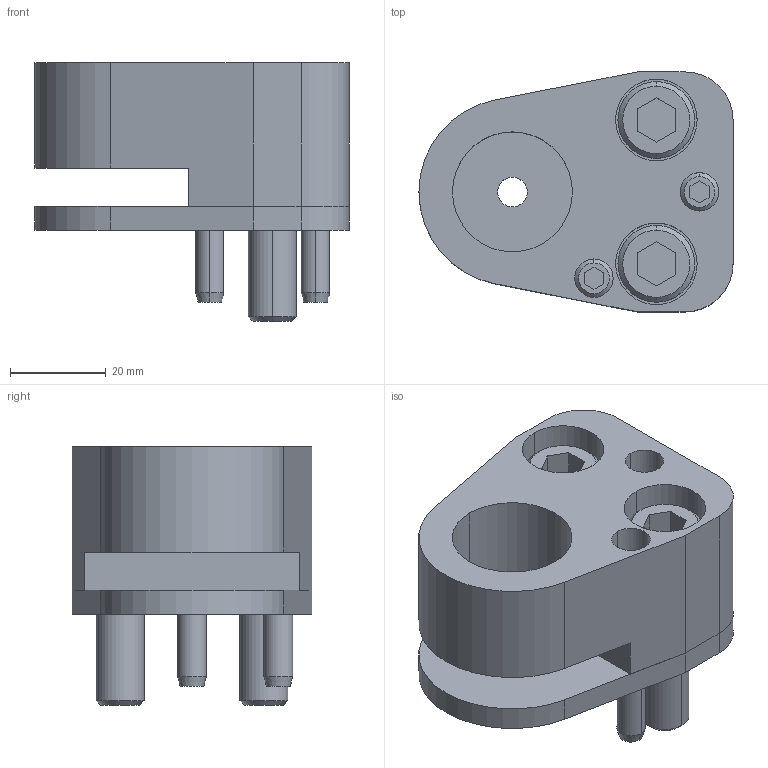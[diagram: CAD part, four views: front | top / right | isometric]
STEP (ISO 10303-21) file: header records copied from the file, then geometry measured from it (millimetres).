
FILE_DESCRIPTION(/* description */ (''),/* implementation_level */ '2;1');
FILE_NAME(/* name */ '3d_ap-fp25_02885_r00.stp',/* time_stamp */ '2011-01-10T14:17:45+09:00',/* author */ ('MISUMI'),/* organization */ (''),/* preprocessor_version */ 'ST-DEVELOPER v11',/* originating_system */ 'UGS - NX 5.0',/* authorisation */ '');
FILE_SCHEMA (('CONFIG_CONTROL_DESIGN'));
Length unit declared in the file: millimetre
Products named in the file (1): 3d_ap-fp25_02885_r00
Bounding box: 65.5 x 50 x 54 mm (x, y, z)
Volume: 73716.4 mm3; surface area: 28178.5 mm2
Topology: 8 solids, 8 shells, 154 faces, 350 edges, 225 vertices
Faces by surface type: plane 68, cylinder 60, cone 26
Entity records: 4496 total; most frequent: DIRECTION 802, CARTESIAN_POINT 783, ORIENTED_EDGE 700, EDGE_CURVE 350, AXIS2_PLACEMENT_3D 302, VERTEX_POINT 225, LINE 198, VECTOR 198
